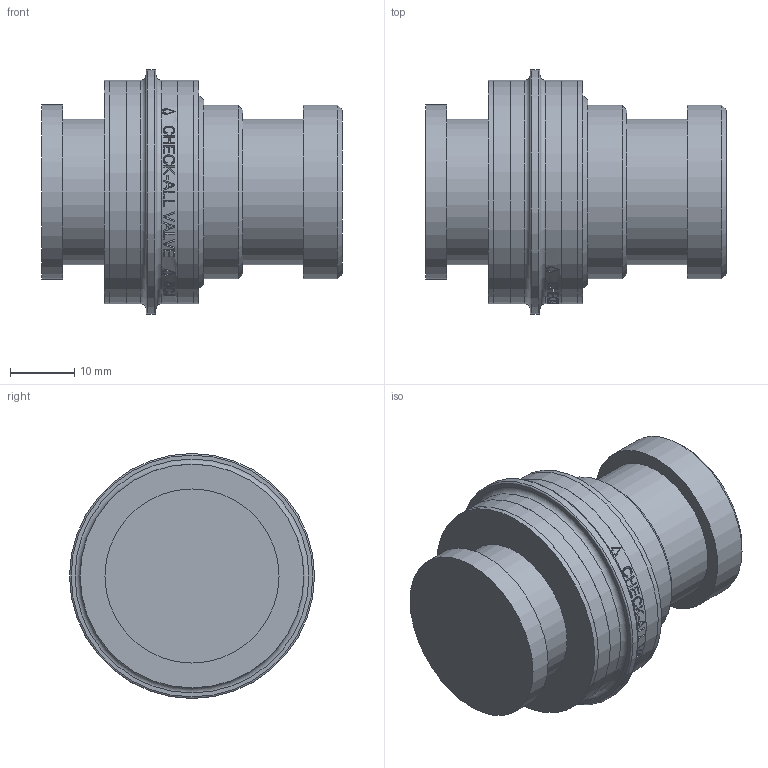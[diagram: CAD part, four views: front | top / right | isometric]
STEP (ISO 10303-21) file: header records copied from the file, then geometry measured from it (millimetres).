
FILE_DESCRIPTION( ( 'Unknown' ), '1' );
FILE_NAME( 'Y:/ENGR/3D Solid Edge Models/SC/SC-PRT/SCJ.stp', 'Unknown', ( 'Unknown' ), ( 'Unknown' ), 'PSStep 14.0', 'Unknown', ' ' );
FILE_SCHEMA( ( 'AUTOMOTIVE_DESIGN { 1 0 10303 214 1 1 1 1 }' ) );
Length unit declared in the file: inch
Products named in the file (1): 1
Bounding box: 46.71 x 38.08 x 38.08 mm (x, y, z)
Volume: 29947.6 mm3; surface area: 7103.9 mm2
Topology: 1 solids, 1 shells, 210 faces, 514 edges, 341 vertices
Faces by surface type: plane 116, bspline 52, cylinder 35, torus 4, cone 3
Full cylindrical faces by diameter (mm): 22.606 x2, 27 x2, 27.051 x1, 34.773 x4, 34.798 x2, 38.076 x1
Entity records: 9581 total; most frequent: CARTESIAN_POINT 4044, ORIENTED_EDGE 988, EDGE_CURVE 494, B_SPLINE_CURVE_WITH_KNOTS 462, DIRECTION 382, VERTEX_POINT 340, EDGE_LOOP 264, FACE_OUTER_BOUND 226
